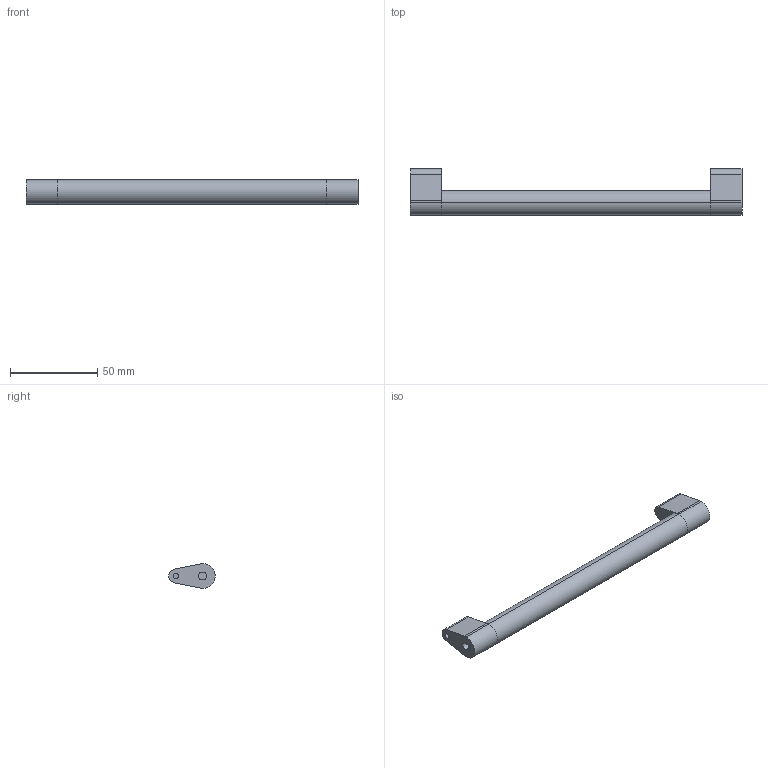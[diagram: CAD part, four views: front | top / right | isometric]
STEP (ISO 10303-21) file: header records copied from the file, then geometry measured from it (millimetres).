
FILE_DESCRIPTION (( 'STEP AP214' ), '1' );
FILE_NAME ('_Synchronisationseinheit Nova Pro KAB275_S16.step', '2010-07-08T13:58:25', ( 'grass' ), ( '' ), 'SwSTEP 2.0', 'SolidWorks 2010', '' );
FILE_SCHEMA (( 'AUTOMOTIVE_DESIGN' ));
Length unit declared in the file: millimetre
Products named in the file (1): _Synchronisationseinheit Nova Pro KAB275_S16
Bounding box: 190 x 26.5 x 14 mm (x, y, z)
Volume: 32935.1 mm3; surface area: 11203.6 mm2
Topology: 3 solids, 3 shells, 36 faces, 78 edges, 52 vertices
Faces by surface type: cylinder 18, plane 18
Entity records: 1050 total; most frequent: DIRECTION 188, CARTESIAN_POINT 167, ORIENTED_EDGE 156, EDGE_CURVE 78, AXIS2_PLACEMENT_3D 73, VERTEX_POINT 52, LINE 42, VECTOR 42
